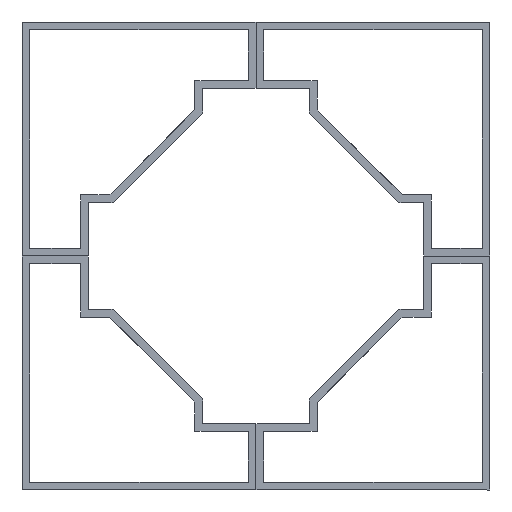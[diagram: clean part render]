
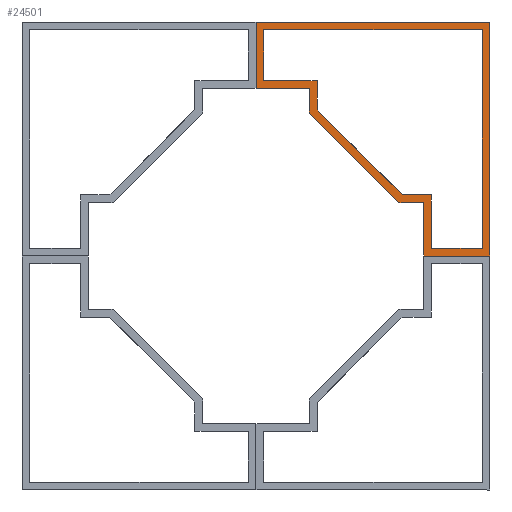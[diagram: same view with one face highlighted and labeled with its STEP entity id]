
A CAD part, front view. The second image highlights one B-rep face of the part: STEP entity #24501.
In plain terms, the highlighted planar face has unit normal (0, -1, 0).
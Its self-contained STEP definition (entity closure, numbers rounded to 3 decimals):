
#45 = CARTESIAN_POINT ( 'NONE',  ( 34.5, -964.5, 2.8 ) ) ;
#118 = DIRECTION ( 'NONE',  ( 0., 0., 1. ) ) ;
#159 = ORIENTED_EDGE ( 'NONE', *, *, #3887, .T. ) ;
#167 = ORIENTED_EDGE ( 'NONE', *, *, #20596, .F. ) ;
#200 = VECTOR ( 'NONE', #32681, 1000. ) ;
#390 = CARTESIAN_POINT ( 'NONE',  ( 12., -964.5, 34.5 ) ) ;
#428 = CARTESIAN_POINT ( 'NONE',  ( 34.5, -964.5, 1.5 ) ) ;
#764 = PLANE ( 'NONE',  #18276 ) ;
#1245 = VECTOR ( 'NONE', #24551, 1000. ) ;
#1498 = DIRECTION ( 'NONE',  ( 0., 0., 1. ) ) ;
#1997 = ORIENTED_EDGE ( 'NONE', *, *, #25901, .T. ) ;
#3033 = DIRECTION ( 'NONE',  ( 1., 0., 0. ) ) ;
#3044 = CARTESIAN_POINT ( 'NONE',  ( 27.28, -964.5, 11.32 ) ) ;
#3179 = CARTESIAN_POINT ( 'NONE',  ( 12., -964.5, 29.26 ) ) ;
#3193 = CARTESIAN_POINT ( 'NONE',  ( 2.8, -964.5, 46. ) ) ;
#3573 = VECTOR ( 'NONE', #24203, 1000. ) ;
#3826 = EDGE_CURVE ( 'NONE', #24248, #14331, #29615, .T. ) ;
#3887 = EDGE_CURVE ( 'NONE', #14331, #31952, #23232, .T. ) ;
#3928 = VECTOR ( 'NONE', #16062, 1000. ) ;
#4381 = EDGE_LOOP ( 'NONE', ( #4565, #13170, #24537, #19704, #18656, #26124, #33499, #26216, #167 ) ) ;
#4436 = EDGE_CURVE ( 'NONE', #8725, #7362, #23526, .T. ) ;
#4544 = CARTESIAN_POINT ( 'NONE',  ( 28.721, -964.5, 12. ) ) ;
#4565 = ORIENTED_EDGE ( 'NONE', *, *, #31309, .F. ) ;
#4775 = CARTESIAN_POINT ( 'NONE',  ( 10.5, -964.5, 33. ) ) ;
#4861 = VECTOR ( 'NONE', #25543, 1000. ) ;
#4872 = DIRECTION ( 'NONE',  ( 0., 0., -1. ) ) ;
#5181 = DIRECTION ( 'NONE',  ( 0., 0., 1. ) ) ;
#5277 = VERTEX_POINT ( 'NONE', #4544 ) ;
#5407 = EDGE_CURVE ( 'NONE', #9177, #5452, #8322, .T. ) ;
#5431 = LINE ( 'NONE', #13516, #9606 ) ;
#5452 = VERTEX_POINT ( 'NONE', #9332 ) ;
#5759 = VERTEX_POINT ( 'NONE', #7959 ) ;
#5824 = CARTESIAN_POINT ( 'NONE',  ( 1.5, -964.5, 35.8 ) ) ;
#6798 = CARTESIAN_POINT ( 'NONE',  ( 2.8, -964.5, 44.5 ) ) ;
#6898 = CARTESIAN_POINT ( 'NONE',  ( 9.2, -964.5, 34.5 ) ) ;
#7362 = VERTEX_POINT ( 'NONE', #22461 ) ;
#7894 = CARTESIAN_POINT ( 'NONE',  ( 10.5, -964.5, 28.1 ) ) ;
#7959 = CARTESIAN_POINT ( 'NONE',  ( 46., -964.5, 46. ) ) ;
#8322 = LINE ( 'NONE', #45, #17823 ) ;
#8382 = VERTEX_POINT ( 'NONE', #17031 ) ;
#8725 = VERTEX_POINT ( 'NONE', #15979 ) ;
#9177 = VERTEX_POINT ( 'NONE', #428 ) ;
#9210 = EDGE_CURVE ( 'NONE', #27277, #33125, #13676, .T. ) ;
#9216 = CARTESIAN_POINT ( 'NONE',  ( 31.7, -964.5, 12. ) ) ;
#9269 = CARTESIAN_POINT ( 'NONE',  ( 33., -964.5, 2.8 ) ) ;
#9332 = CARTESIAN_POINT ( 'NONE',  ( 34.5, -964.5, 12. ) ) ;
#9606 = VECTOR ( 'NONE', #13154, 1000. ) ;
#10651 = CARTESIAN_POINT ( 'NONE',  ( 28.1, -964.5, 10.5 ) ) ;
#10684 = VERTEX_POINT ( 'NONE', #24628 ) ;
#10749 = DIRECTION ( 'NONE',  ( -1., 0., 0. ) ) ;
#11075 = ORIENTED_EDGE ( 'NONE', *, *, #5407, .T. ) ;
#11288 = CARTESIAN_POINT ( 'NONE',  ( 2.8, -964.5, 43.2 ) ) ;
#11428 = EDGE_CURVE ( 'NONE', #20193, #29433, #21962, .T. ) ;
#11839 = VECTOR ( 'NONE', #5181, 1000. ) ;
#12218 = CARTESIAN_POINT ( 'NONE',  ( 12.226, -964.5, 28.495 ) ) ;
#12298 = LINE ( 'NONE', #32866, #33483 ) ;
#12565 = ORIENTED_EDGE ( 'NONE', *, *, #31424, .T. ) ;
#12592 = LINE ( 'NONE', #23030, #26014 ) ;
#13154 = DIRECTION ( 'NONE',  ( 0., 0., -1. ) ) ;
#13170 = ORIENTED_EDGE ( 'NONE', *, *, #24016, .F. ) ;
#13516 = CARTESIAN_POINT ( 'NONE',  ( 46., -964.5, 2.8 ) ) ;
#13551 = LINE ( 'NONE', #5824, #33250 ) ;
#13676 = LINE ( 'NONE', #3179, #3928 ) ;
#13752 = CARTESIAN_POINT ( 'NONE',  ( 5.647, -964.5, 44.379 ) ) ;
#14012 = FACE_BOUND ( 'NONE', #18836, .T. ) ;
#14035 = DIRECTION ( 'NONE',  ( 1., 0., 0. ) ) ;
#14331 = VERTEX_POINT ( 'NONE', #27280 ) ;
#14336 = EDGE_CURVE ( 'NONE', #27355, #20193, #30509, .T. ) ;
#14589 = EDGE_CURVE ( 'NONE', #5277, #18528, #28807, .T. ) ;
#15031 = VECTOR ( 'NONE', #14035, 1000. ) ;
#15496 = VECTOR ( 'NONE', #32213, 1000. ) ;
#15684 = CARTESIAN_POINT ( 'NONE',  ( 33., -964.5, 10.5 ) ) ;
#15979 = CARTESIAN_POINT ( 'NONE',  ( 0., -964.5, 33. ) ) ;
#16059 = CARTESIAN_POINT ( 'NONE',  ( 12., -964.5, 29.041 ) ) ;
#16062 = DIRECTION ( 'NONE',  ( 0., 0., 1. ) ) ;
#16541 = EDGE_CURVE ( 'NONE', #10684, #27355, #18608, .T. ) ;
#17014 = LINE ( 'NONE', #6898, #18826 ) ;
#17031 = CARTESIAN_POINT ( 'NONE',  ( 1.5, -964.5, 34.5 ) ) ;
#17578 = EDGE_CURVE ( 'NONE', #5759, #10684, #5431, .T. ) ;
#17823 = VECTOR ( 'NONE', #21188, 1000. ) ;
#18276 = AXIS2_PLACEMENT_3D ( 'NONE', #11288, #32338, #24116 ) ;
#18401 = CARTESIAN_POINT ( 'NONE',  ( 0., -964.5, 35.8 ) ) ;
#18528 = VERTEX_POINT ( 'NONE', #12218 ) ;
#18604 = EDGE_CURVE ( 'NONE', #33125, #8382, #17014, .T. ) ;
#18608 = LINE ( 'NONE', #26511, #24357 ) ;
#18656 = ORIENTED_EDGE ( 'NONE', *, *, #16541, .F. ) ;
#18699 = VECTOR ( 'NONE', #19659, 1000. ) ;
#18826 = VECTOR ( 'NONE', #30539, 1000. ) ;
#18836 = EDGE_LOOP ( 'NONE', ( #23904, #29043, #33510, #22977, #29893, #27521, #159, #1997, #11075, #12565 ) ) ;
#19659 = DIRECTION ( 'NONE',  ( -1., 0., 0. ) ) ;
#19704 = ORIENTED_EDGE ( 'NONE', *, *, #14336, .F. ) ;
#19970 = CARTESIAN_POINT ( 'NONE',  ( 9.2, -964.5, 33. ) ) ;
#20190 = VECTOR ( 'NONE', #1498, 1000. ) ;
#20193 = VERTEX_POINT ( 'NONE', #15684 ) ;
#20596 = EDGE_CURVE ( 'NONE', #26669, #8725, #27358, .T. ) ;
#21188 = DIRECTION ( 'NONE',  ( 0., 0., 1. ) ) ;
#21962 = LINE ( 'NONE', #29877, #1245 ) ;
#21988 = VECTOR ( 'NONE', #3033, 1000. ) ;
#22231 = LINE ( 'NONE', #9216, #18699 ) ;
#22461 = CARTESIAN_POINT ( 'NONE',  ( 0., -964.5, 46. ) ) ;
#22977 = ORIENTED_EDGE ( 'NONE', *, *, #18604, .T. ) ;
#23030 = CARTESIAN_POINT ( 'NONE',  ( 35.8, -964.5, 1.5 ) ) ;
#23232 = LINE ( 'NONE', #30447, #32014 ) ;
#23381 = DIRECTION ( 'NONE',  ( -1., 0., 0. ) ) ;
#23526 = LINE ( 'NONE', #18401, #11839 ) ;
#23904 = ORIENTED_EDGE ( 'NONE', *, *, #14589, .T. ) ;
#24016 = EDGE_CURVE ( 'NONE', #29433, #27988, #29808, .T. ) ;
#24116 = DIRECTION ( 'NONE',  ( 0., 0., 1. ) ) ;
#24203 = DIRECTION ( 'NONE',  ( -0.383, 0., 0.924 ) ) ;
#24248 = VERTEX_POINT ( 'NONE', #30288 ) ;
#24357 = VECTOR ( 'NONE', #10749, 1000. ) ;
#24501 = ADVANCED_FACE ( 'NONE', ( #14012, #27034 ), #764, .F. ) ;
#24537 = ORIENTED_EDGE ( 'NONE', *, *, #11428, .F. ) ;
#24551 = DIRECTION ( 'NONE',  ( -1., 0., 0. ) ) ;
#24628 = CARTESIAN_POINT ( 'NONE',  ( 46., -964.5, 0. ) ) ;
#25543 = DIRECTION ( 'NONE',  ( -0.707, 0., 0.707 ) ) ;
#25901 = EDGE_CURVE ( 'NONE', #31952, #9177, #12592, .T. ) ;
#26014 = VECTOR ( 'NONE', #23381, 1000. ) ;
#26124 = ORIENTED_EDGE ( 'NONE', *, *, #17578, .F. ) ;
#26185 = CARTESIAN_POINT ( 'NONE',  ( 33., -964.5, 0. ) ) ;
#26216 = ORIENTED_EDGE ( 'NONE', *, *, #4436, .F. ) ;
#26360 = EDGE_CURVE ( 'NONE', #18528, #27277, #31912, .T. ) ;
#26511 = CARTESIAN_POINT ( 'NONE',  ( 35.8, -964.5, 0. ) ) ;
#26669 = VERTEX_POINT ( 'NONE', #4775 ) ;
#27034 = FACE_OUTER_BOUND ( 'NONE', #4381, .T. ) ;
#27277 = VERTEX_POINT ( 'NONE', #16059 ) ;
#27280 = CARTESIAN_POINT ( 'NONE',  ( 44.5, -964.5, 44.5 ) ) ;
#27355 = VERTEX_POINT ( 'NONE', #26185 ) ;
#27358 = LINE ( 'NONE', #19970, #200 ) ;
#27521 = ORIENTED_EDGE ( 'NONE', *, *, #3826, .T. ) ;
#27988 = VERTEX_POINT ( 'NONE', #7894 ) ;
#28177 = EDGE_CURVE ( 'NONE', #8382, #24248, #13551, .T. ) ;
#28353 = CARTESIAN_POINT ( 'NONE',  ( 44.5, -964.5, 1.5 ) ) ;
#28807 = LINE ( 'NONE', #33264, #4861 ) ;
#29043 = ORIENTED_EDGE ( 'NONE', *, *, #26360, .T. ) ;
#29118 = LINE ( 'NONE', #3193, #21988 ) ;
#29433 = VERTEX_POINT ( 'NONE', #10651 ) ;
#29615 = LINE ( 'NONE', #6798, #15031 ) ;
#29808 = LINE ( 'NONE', #3044, #15496 ) ;
#29877 = CARTESIAN_POINT ( 'NONE',  ( 31.7, -964.5, 10.5 ) ) ;
#29893 = ORIENTED_EDGE ( 'NONE', *, *, #28177, .T. ) ;
#30112 = DIRECTION ( 'NONE',  ( 0., 0., 1. ) ) ;
#30288 = CARTESIAN_POINT ( 'NONE',  ( 1.5, -964.5, 44.5 ) ) ;
#30447 = CARTESIAN_POINT ( 'NONE',  ( 44.5, -964.5, 2.8 ) ) ;
#30509 = LINE ( 'NONE', #9269, #20190 ) ;
#30539 = DIRECTION ( 'NONE',  ( -1., 0., 0. ) ) ;
#31164 = EDGE_CURVE ( 'NONE', #7362, #5759, #29118, .T. ) ;
#31309 = EDGE_CURVE ( 'NONE', #27988, #26669, #12298, .T. ) ;
#31424 = EDGE_CURVE ( 'NONE', #5452, #5277, #22231, .T. ) ;
#31912 = LINE ( 'NONE', #13752, #3573 ) ;
#31952 = VERTEX_POINT ( 'NONE', #28353 ) ;
#32014 = VECTOR ( 'NONE', #4872, 1000. ) ;
#32213 = DIRECTION ( 'NONE',  ( -0.707, 0., 0.707 ) ) ;
#32338 = DIRECTION ( 'NONE',  ( 0., 1., 0. ) ) ;
#32681 = DIRECTION ( 'NONE',  ( -1., 0., 0. ) ) ;
#32866 = CARTESIAN_POINT ( 'NONE',  ( 10.5, -964.5, 29.26 ) ) ;
#33125 = VERTEX_POINT ( 'NONE', #390 ) ;
#33250 = VECTOR ( 'NONE', #118, 1000. ) ;
#33264 = CARTESIAN_POINT ( 'NONE',  ( 28.341, -964.5, 12.381 ) ) ;
#33483 = VECTOR ( 'NONE', #30112, 1000. ) ;
#33499 = ORIENTED_EDGE ( 'NONE', *, *, #31164, .F. ) ;
#33510 = ORIENTED_EDGE ( 'NONE', *, *, #9210, .T. ) ;
